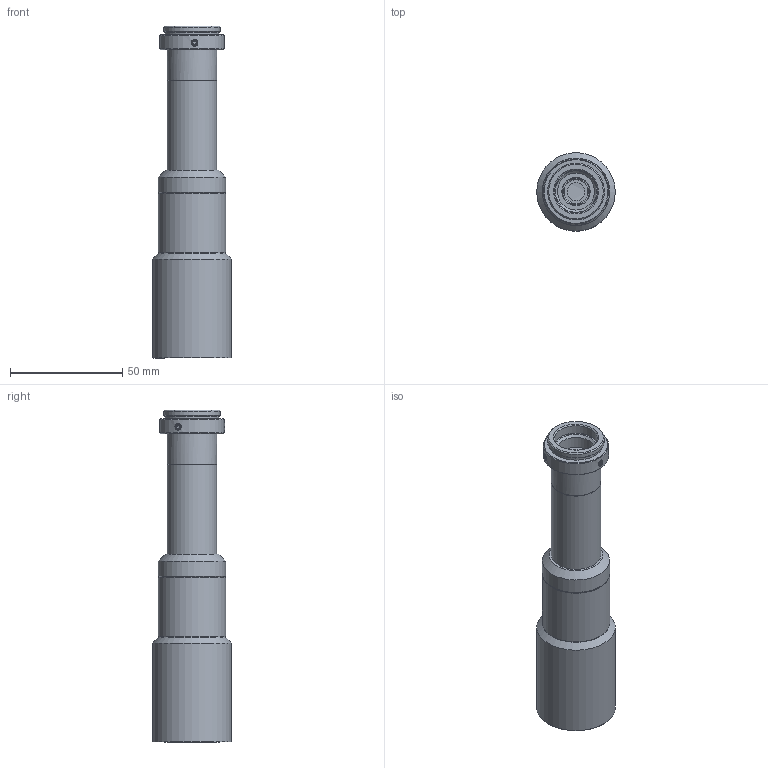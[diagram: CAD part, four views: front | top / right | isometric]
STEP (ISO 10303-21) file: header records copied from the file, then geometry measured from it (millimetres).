
FILE_DESCRIPTION(('STEP AP214'),'1');
FILE_NAME('RTK-3-M110.stp','2026-08-03T02:38:21',(' '),(' '),'Spatial InterOp 3D',' ',' ');
FILE_SCHEMA(('AUTOMOTIVE_DESIGN { 1 0 10303 214 1 1 1 1 }'));
Length unit declared in the file: metre
Products named in the file (2): RTK-3-M110; Component1
Assembly tree (1 placements, depth 2):
  RTK-3-M110
    Component1
Bounding box: 35 x 35 x 148 mm (x, y, z)
Volume: 44398.9 mm3; surface area: 28916 mm2
Topology: 1 solids, 9 shells, 181 faces, 378 edges, 248 vertices
Faces by surface type: plane 70, cone 63, cylinder 43, bspline 3, sphere 2
Full cylindrical faces by diameter (mm): 8 x1, 10.5 x1, 12 x1, 12.8 x1, 15 x1, 16 x1, 16.5 x1, 17.2 x1, 18 x1, 18.2 x1, 19 x3, 19.02 x1, 20.4 x1, 21.2 x1, 21.9 x1, 22 x5, 24.12 x1, 24.6 x2, 24.8 x2, 25.32 x1, 25.6 x2, 27 x4, 28.5 x1, 29 x1, 30 x2, 30.5 x2, 31.9 x1, 32.7 x1, 35 x1
Entity records: 6156 total; most frequent: CARTESIAN_POINT 1255, DIRECTION 732, ORIENTED_EDGE 524, AXIS2_PLACEMENT_3D 330, EDGE_LOOP 316, EDGE_CURVE 262, FACE_OUTER_BOUND 226, VERTEX_POINT 220
